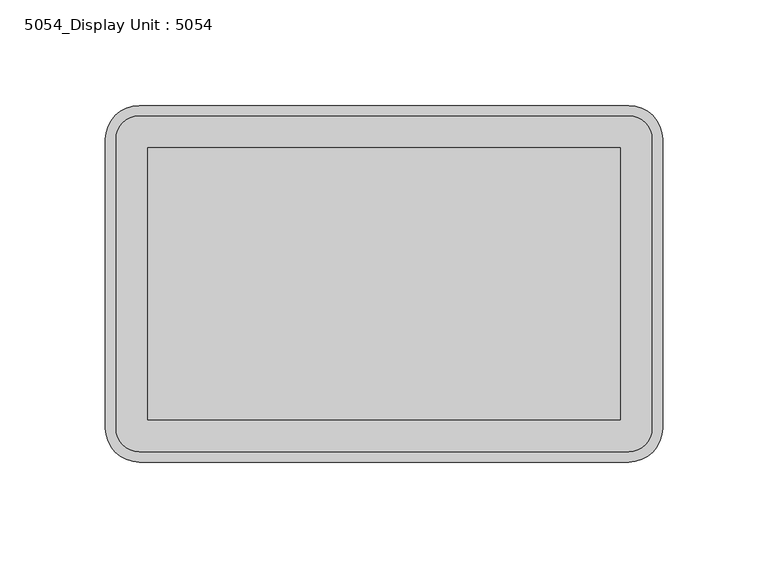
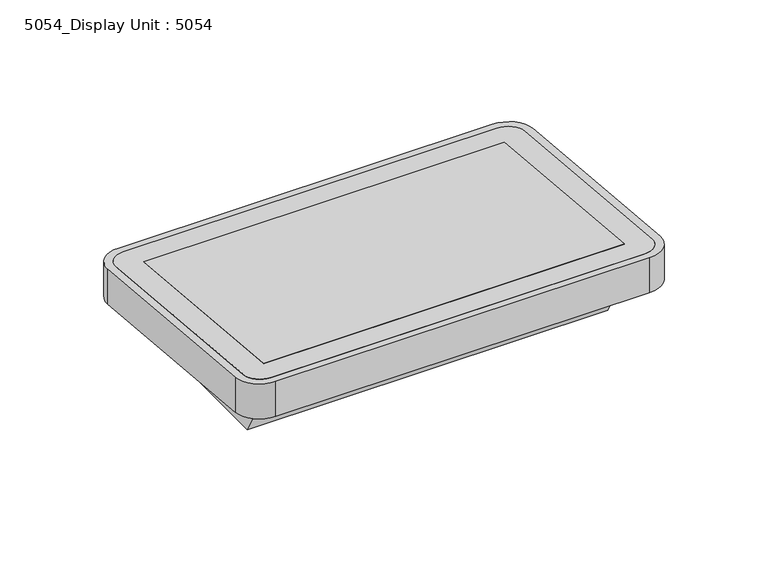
"""IFC4 building model written with IfcOpenShell, lengths in millimetres: alarm geometry, 5054_Display Unit : 5054."""

from ifc_helpers import new_model, si_unit, frame, origin, place, context, project, spatial, polyline, ellipse_curve, outline, extrude, source, transform, mapped, element, save
from ifc_brep_helpers import plane_surface, cylinder_surface, revolved_surface, advanced_brep


def alarm_5054_display_unit_5054_106c486f(model_context):
    return source(origin(), model_context, "Body", "SolidModel", [
        extrude(outline(polyline([(68.1304492, 0.0), (-46.8695508, 0.0), (-64.5, 33.0), (68.1304492, 33.0), (68.1304492, 0.0)])), frame((-112.0, 0.0, 0.0), z_axis=(1.0, 0.0, 0.0), x_axis=(0.0, 1.0, 0.0)), (0.0, 0.0, 1.0), 224.0),
        extrude(outline(polyline([(64.5, 42.7751479), (64.5, 19.7751479), (-64.5, 31.2248521), (-64.5, 54.2248521), (64.5, 42.7751479)])), frame((-112.0, 0.0, 0.0), z_axis=(1.0, 0.0, 0.0), x_axis=(0.0, 1.0, 0.0)), (0.0, 0.0, 1.0), 224.0),
        advanced_brep(
        [(-116.0, 79.5, 18.443787), (116.0, 79.5, 18.443787), (127.0, 68.5, 19.4201183), (127.0, -68.5, 31.5798817), (116.0, -79.5, 32.556213), (-116.0, -79.5, 32.556213), (-127.0, -68.5, 31.5798817), (-127.0, 68.5, 19.4201183), (112.0, -64.5, 31.2248521), (112.0, 64.5, 19.7751479), (-112.0, 64.5, 19.7751479), (-112.0, -64.5, 31.2248521), (116.0, 79.5, 41.443787), (-116.0, 79.5, 41.443787), (-127.0, 68.5, 42.4201183), (-127.0, -68.5, 54.5798817), (-116.0, -79.5, 55.556213), (116.0, -79.5, 55.556213), (127.0, -68.5, 54.5798817), (127.0, 68.5, 42.4201183), (112.0, 64.5, 42.7751479), (112.0, -64.5, 54.2248521), (-112.0, -64.5, 54.2248521), (-112.0, 64.5, 42.7751479)],
        [
            (0, 1),
            (1, 2, ellipse_curve(frame((116.0, 68.5, 19.4201183), z_axis=(0.0, -0.08840983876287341, -0.9960841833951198), x_axis=(0.0, -0.99608418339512, 0.08840983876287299)), 11.0432433, 11.0)),
            (2, 3),
            (3, 4, ellipse_curve(frame((116.0, -68.5, 31.5798817), z_axis=(0.0, -0.08840983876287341, -0.9960841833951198), x_axis=(0.0, -0.99608418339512, 0.08840983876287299)), 11.0432433, 11.0)),
            (4, 5),
            (5, 6, ellipse_curve(frame((-116.0, -68.5, 31.5798817), z_axis=(0.0, -0.08840983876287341, -0.9960841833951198), x_axis=(0.0, -0.99608418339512, 0.08840983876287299)), 11.0432433, 11.0)),
            (6, 7),
            (7, 0, ellipse_curve(frame((-116.0, 68.5, 19.4201183), z_axis=(0.0, -0.08840983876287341, -0.9960841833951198), x_axis=(0.0, -0.99608418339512, 0.08840983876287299)), 11.0432433, 11.0)),
            (8, 9),
            (9, 10),
            (10, 11),
            (11, 8),
            (12, 13),
            (13, 14, ellipse_curve(frame((-116.0, 68.5, 42.4201183), z_axis=(0.0, 0.0884098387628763, 0.9960841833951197), x_axis=(0.0, -0.9960841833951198, 0.08840983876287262)), 11.0432433, 11.0)),
            (14, 15),
            (15, 16, ellipse_curve(frame((-116.0, -68.5, 54.5798817), z_axis=(0.0, 0.0884098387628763, 0.9960841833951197), x_axis=(0.0, -0.9960841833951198, 0.08840983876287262)), 11.0432433, 11.0)),
            (16, 17),
            (17, 18, ellipse_curve(frame((116.0, -68.5, 54.5798817), z_axis=(0.0, 0.0884098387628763, 0.9960841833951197), x_axis=(0.0, -0.9960841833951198, 0.08840983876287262)), 11.0432433, 11.0)),
            (18, 19),
            (19, 12, ellipse_curve(frame((116.0, 68.5, 42.4201183), z_axis=(0.0, 0.0884098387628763, 0.9960841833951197), x_axis=(0.0, -0.9960841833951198, 0.08840983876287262)), 11.0432433, 11.0)),
            (20, 21),
            (21, 22),
            (22, 23),
            (23, 20),
            (12, 1),
            (0, 13),
            (7, 14),
            (6, 15),
            (5, 16),
            (4, 17),
            (3, 18),
            (2, 19),
            (20, 9),
            (8, 21),
            (11, 22),
            (10, 23),
        ],
        [
            plane_surface(frame((132.0, 84.5, 18.0), z_axis=(0.0, -0.08840983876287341, -0.9960841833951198), x_axis=(-1.0, 0.0, 0.0))),
            plane_surface(frame((132.0, -84.5, 56.0), z_axis=(0.0, 0.0884098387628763, 0.9960841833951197), x_axis=(-1.0, 0.0, 0.0))),
            plane_surface(frame((116.0, 79.5, 56.0), z_axis=(0.0, 1.0, 0.0), x_axis=(0.0, 0.0, -1.0))),
            cylinder_surface(frame((-116.0, 68.5, 18.0), z_axis=(0.0, 0.0, 1.0), x_axis=(1.0, 0.0, 0.0)), 11.0),
            plane_surface(frame((-127.0, 68.5, 56.0), z_axis=(-1.0, 0.0, 0.0), x_axis=(0.0, 0.0, -1.0))),
            cylinder_surface(frame((-116.0, -68.5, 18.0), z_axis=(0.0, 0.0, 1.0), x_axis=(1.0, 0.0, 0.0)), 11.0),
            plane_surface(frame((-116.0, -79.5, 56.0), z_axis=(0.0, -1.0, 0.0), x_axis=(0.0, 0.0, -1.0))),
            cylinder_surface(frame((116.0, -68.5, 18.0), z_axis=(0.0, 0.0, 1.0), x_axis=(1.0, 0.0, 0.0)), 11.0),
            plane_surface(frame((127.0, -68.5, 56.0), z_axis=(1.0, 0.0, 0.0), x_axis=(0.0, 0.0, -1.0))),
            cylinder_surface(frame((116.0, 68.5, 18.0), z_axis=(0.0, 0.0, 1.0), x_axis=(1.0, 0.0, 0.0)), 11.0),
            plane_surface(frame((112.0, 64.5, 56.0), z_axis=(-1.0, 0.0, 0.0), x_axis=(0.0, 0.0, -1.0))),
            plane_surface(frame((112.0, -64.5, 56.0), z_axis=(0.0, 1.0, 0.0), x_axis=(0.0, 0.0, -1.0))),
            plane_surface(frame((-112.0, -64.5, 56.0), z_axis=(1.0, 0.0, 0.0), x_axis=(0.0, 0.0, -1.0))),
            plane_surface(frame((-112.0, 64.5, 56.0), z_axis=(0.0, -1.0, 0.0), x_axis=(0.0, 0.0, -1.0))),
        ],
        [
            (0, [[1, 2, 3, 4, 5, 6, 7, 8], [9, 10, 11, 12]]),
            (1, [[13, 14, 15, 16, 17, 18, 19, 20], [21, 22, 23, 24]]),
            (2, [[25, -1, 26, -13]]),
            (3, [[-26, -8, 27, -14]]),
            (4, [[-27, -7, 28, -15]]),
            (5, [[-28, -6, 29, -16]]),
            (6, [[-29, -5, 30, -17]]),
            (7, [[-30, -4, 31, -18]]),
            (8, [[-31, -3, 32, -19]]),
            (9, [[-25, -20, -32, -2]]),
            (10, [[33, -9, 34, -21]]),
            (11, [[-34, -12, 35, -22]]),
            (12, [[-35, -11, 36, -23]]),
            (13, [[-33, -24, -36, -10]]),
        ],
    ),
        advanced_brep(
        [(132.0, -68.5, 54.5798817), (132.0, -68.5, 31.5798817), (132.0, 68.5, 19.4201183), (132.0, 68.5, 42.4201183), (116.0, 84.5, 41.0), (116.0, 84.5, 18.0), (-116.0, 84.5, 18.0), (-116.0, 84.5, 41.0), (-132.0, 68.5, 42.4201183), (-132.0, 68.5, 19.4201183), (-132.0, -68.5, 31.5798817), (-132.0, -68.5, 54.5798817), (-116.0, -84.5, 56.0), (-116.0, -84.5, 33.0), (116.0, -84.5, 33.0), (116.0, -84.5, 56.0), (127.0, 68.5, 42.4201183), (127.0, 68.5, 19.4201183), (127.0, -68.5, 31.5798817), (127.0, -68.5, 54.5798817), (116.0, -79.5, 55.556213), (116.0, -79.5, 32.556213), (-116.0, -79.5, 32.556213), (-116.0, -79.5, 55.556213), (-127.0, -68.5, 54.5798817), (-127.0, -68.5, 31.5798817), (-127.0, 68.5, 19.4201183), (-127.0, 68.5, 42.4201183), (-116.0, 79.5, 41.443787), (-116.0, 79.5, 18.443787), (116.0, 79.5, 18.443787), (116.0, 79.5, 41.443787)],
        [
            (0, 1),
            (1, 2),
            (2, 3),
            (3, 0),
            (4, 5),
            (5, 6),
            (6, 7),
            (7, 4),
            (8, 9),
            (9, 10),
            (10, 11),
            (11, 8),
            (12, 13),
            (13, 14),
            (14, 15),
            (15, 12),
            (16, 17),
            (17, 18),
            (18, 19),
            (19, 16),
            (20, 21),
            (21, 22),
            (22, 23),
            (23, 20),
            (24, 25),
            (25, 26),
            (26, 27),
            (27, 24),
            (28, 29),
            (29, 30),
            (30, 31),
            (31, 28),
            (1, 14, ellipse_curve(frame((116.0, -68.5, 31.5798817), z_axis=(0.0, -0.08840983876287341, -0.9960841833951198), x_axis=(0.0, -0.99608418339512, 0.08840983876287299)), 16.0628994, 16.0)),
            (13, 10, ellipse_curve(frame((-116.0, -68.5, 31.5798817), z_axis=(0.0, -0.08840983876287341, -0.9960841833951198), x_axis=(0.0, -0.99608418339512, 0.08840983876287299)), 16.0628994, 16.0)),
            (9, 6, ellipse_curve(frame((-116.0, 68.5, 19.4201183), z_axis=(0.0, -0.08840983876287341, -0.9960841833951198), x_axis=(0.0, -0.99608418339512, 0.08840983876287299)), 16.0628994, 16.0)),
            (5, 2, ellipse_curve(frame((116.0, 68.5, 19.4201183), z_axis=(0.0, -0.08840983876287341, -0.9960841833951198), x_axis=(0.0, -0.99608418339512, 0.08840983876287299)), 16.0628994, 16.0)),
            (17, 30, ellipse_curve(frame((116.0, 68.5, 19.4201183), z_axis=(0.0, 0.08840983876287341, 0.9960841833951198), x_axis=(0.0, 0.99608418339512, -0.08840983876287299)), 11.0432433, 11.0)),
            (29, 26, ellipse_curve(frame((-116.0, 68.5, 19.4201183), z_axis=(0.0, 0.08840983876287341, 0.9960841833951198), x_axis=(0.0, 0.99608418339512, -0.08840983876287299)), 11.0432433, 11.0)),
            (25, 22, ellipse_curve(frame((-116.0, -68.5, 31.5798817), z_axis=(0.0, 0.08840983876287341, 0.9960841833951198), x_axis=(0.0, 0.99608418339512, -0.08840983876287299)), 11.0432433, 11.0)),
            (21, 18, ellipse_curve(frame((116.0, -68.5, 31.5798817), z_axis=(0.0, 0.08840983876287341, 0.9960841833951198), x_axis=(0.0, 0.99608418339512, -0.08840983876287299)), 11.0432433, 11.0)),
            (3, 4, ellipse_curve(frame((116.0, 68.5, 42.4201183), z_axis=(0.0, 0.0884098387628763, 0.9960841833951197), x_axis=(0.0, -0.9960841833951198, 0.08840983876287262)), 16.0628994, 16.0)),
            (7, 8, ellipse_curve(frame((-116.0, 68.5, 42.4201183), z_axis=(0.0, 0.0884098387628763, 0.9960841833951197), x_axis=(0.0, -0.9960841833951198, 0.08840983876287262)), 16.0628994, 16.0)),
            (11, 12, ellipse_curve(frame((-116.0, -68.5, 54.5798817), z_axis=(0.0, 0.0884098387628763, 0.9960841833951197), x_axis=(0.0, -0.9960841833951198, 0.08840983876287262)), 16.0628994, 16.0)),
            (15, 0, ellipse_curve(frame((116.0, -68.5, 54.5798817), z_axis=(0.0, 0.0884098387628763, 0.9960841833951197), x_axis=(0.0, -0.9960841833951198, 0.08840983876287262)), 16.0628994, 16.0)),
            (19, 20, ellipse_curve(frame((116.0, -68.5, 54.5798817), z_axis=(0.0, -0.0884098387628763, -0.9960841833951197), x_axis=(0.0, 0.9960841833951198, -0.08840983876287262)), 11.0432433, 11.0)),
            (23, 24, ellipse_curve(frame((-116.0, -68.5, 54.5798817), z_axis=(0.0, -0.0884098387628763, -0.9960841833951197), x_axis=(0.0, 0.9960841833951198, -0.08840983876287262)), 11.0432433, 11.0)),
            (27, 28, ellipse_curve(frame((-116.0, 68.5, 42.4201183), z_axis=(0.0, -0.0884098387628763, -0.9960841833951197), x_axis=(0.0, 0.9960841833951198, -0.08840983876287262)), 11.0432433, 11.0)),
            (31, 16, ellipse_curve(frame((116.0, 68.5, 42.4201183), z_axis=(0.0, -0.0884098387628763, -0.9960841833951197), x_axis=(0.0, 0.9960841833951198, -0.08840983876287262)), 11.0432433, 11.0)),
        ],
        [
            plane_surface(frame((132.0, -68.5, 56.0), z_axis=(1.0, 0.0, 0.0), x_axis=(0.0, 0.0, -1.0))),
            plane_surface(frame((116.0, 84.5, 56.0), z_axis=(0.0, 1.0, 0.0), x_axis=(0.0, 0.0, -1.0))),
            plane_surface(frame((-132.0, 68.5, 56.0), z_axis=(-1.0, 0.0, 0.0), x_axis=(0.0, 0.0, -1.0))),
            plane_surface(frame((-116.0, -84.5, 56.0), z_axis=(0.0, -1.0, 0.0), x_axis=(0.0, 0.0, -1.0))),
            plane_surface(frame((127.0, 68.5, 56.0), z_axis=(-1.0, 0.0, 0.0), x_axis=(0.0, 0.0, -1.0))),
            plane_surface(frame((116.0, -79.5, 56.0), z_axis=(0.0, 1.0, 0.0), x_axis=(0.0, 0.0, -1.0))),
            plane_surface(frame((-127.0, -68.5, 56.0), z_axis=(1.0, 0.0, 0.0), x_axis=(0.0, 0.0, -1.0))),
            plane_surface(frame((-116.0, 79.5, 56.0), z_axis=(0.0, -1.0, 0.0), x_axis=(0.0, 0.0, -1.0))),
            plane_surface(frame((132.0, 84.5, 18.0), z_axis=(0.0, -0.08840983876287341, -0.9960841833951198), x_axis=(-1.0, 0.0, 0.0))),
            plane_surface(frame((132.0, -84.5, 56.0), z_axis=(0.0, 0.0884098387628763, 0.9960841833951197), x_axis=(-1.0, 0.0, 0.0))),
            cylinder_surface(frame((116.0, -68.5, 18.0), z_axis=(0.0, 0.0, 1.0), x_axis=(1.0, 0.0, 0.0)), 16.0),
            cylinder_surface(frame((116.0, 68.5, 18.0), z_axis=(0.0, 0.0, 1.0), x_axis=(1.0, 0.0, 0.0)), 16.0),
            cylinder_surface(frame((-116.0, 68.5, 18.0), z_axis=(0.0, 0.0, 1.0), x_axis=(1.0, 0.0, 0.0)), 16.0),
            cylinder_surface(frame((-116.0, -68.5, 18.0), z_axis=(0.0, 0.0, 1.0), x_axis=(1.0, 0.0, 0.0)), 16.0),
            revolved_surface(polyline([(127.0, 68.5, 18.44378694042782), (127.0, 68.5, 43.39644965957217)]), (116.0, 68.5, 0.0), (0.0, 0.0, -1.0)),
            revolved_surface(polyline([(127.0, -68.5, 30.603550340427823), (127.0, -68.5, 55.55621305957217)]), (116.0, -68.5, 0.0), (0.0, 0.0, -1.0)),
            revolved_surface(polyline([(-105.0, -68.5, 30.603550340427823), (-105.0, -68.5, 55.55621305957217)]), (-116.0, -68.5, 0.0), (0.0, 0.0, -1.0)),
            revolved_surface(polyline([(-105.0, 68.5, 18.44378694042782), (-105.0, 68.5, 43.39644965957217)]), (-116.0, 68.5, 0.0), (0.0, 0.0, -1.0)),
        ],
        [
            (0, [[1, 2, 3, 4]]),
            (1, [[5, 6, 7, 8]]),
            (2, [[9, 10, 11, 12]]),
            (3, [[13, 14, 15, 16]]),
            (4, [[17, 18, 19, 20]]),
            (5, [[21, 22, 23, 24]]),
            (6, [[25, 26, 27, 28]]),
            (7, [[29, 30, 31, 32]]),
            (8, [[-2, 33, -14, 34, -10, 35, -6, 36], [-18, 37, -30, 38, -26, 39, -22, 40]]),
            (9, [[-4, 41, -8, 42, -12, 43, -16, 44], [-20, 45, -24, 46, -28, 47, -32, 48]]),
            (10, [[-1, -44, -15, -33]]),
            (11, [[-5, -41, -3, -36]]),
            (12, [[-9, -42, -7, -35]]),
            (13, [[-13, -43, -11, -34]]),
            (14, [[-17, -48, -31, -37]]),
            (15, [[-21, -45, -19, -40]]),
            (16, [[-25, -46, -23, -39]]),
            (17, [[-29, -47, -27, -38]]),
        ],
    ),
    ])


if __name__ == "__main__":
    model = new_model("IFC4")
    model_context = context("Model", 3, world=origin())
    ifc_project = project(units=[si_unit("LENGTHUNIT", "METRE", prefix="MILLI")], contexts=[model_context])
    site = spatial("IfcSite", under=ifc_project)
    building = spatial("IfcBuilding", under=site)
    placement = place(None, origin())
    alarm_5054_display_unit_5054_shape = alarm_5054_display_unit_5054_106c486f(model_context)
    element("IfcAlarm", 1, ObjectType="5054_Display Unit : 5054", at=placement, inside=building, context=model_context, shape_type="MappedRepresentation", body=[
        mapped(alarm_5054_display_unit_5054_shape, transform((0.0, 0.0, 0.0), x_axis=(1.0, 0.0, 0.0), y_axis=(0.0, 1.0, 0.0), z_axis=(0.0, 0.0, 1.0))),
    ])
    save(model, "model.ifc")
